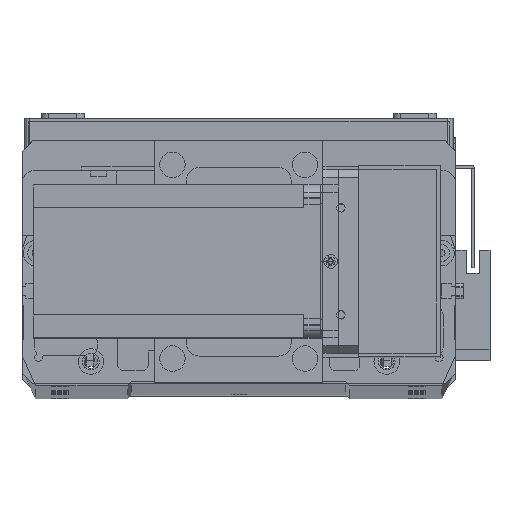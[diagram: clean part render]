
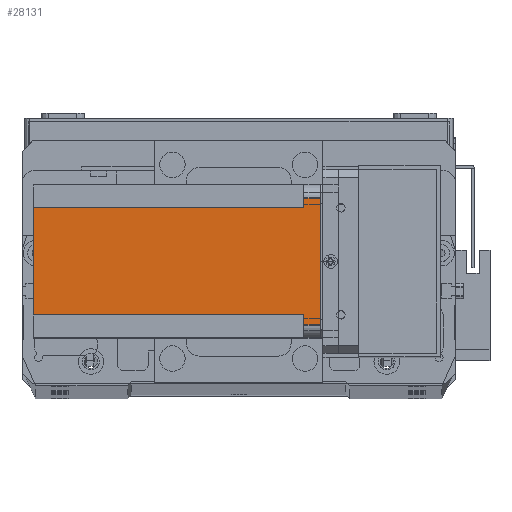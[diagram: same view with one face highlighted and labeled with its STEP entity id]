
A CAD part, top view. The second image highlights one B-rep face of the part: STEP entity #28131.
In plain terms, the highlighted planar face has unit normal (0, 0, 1) as drawn and (-1, 0, 0) by its records, which use the part's own axes.
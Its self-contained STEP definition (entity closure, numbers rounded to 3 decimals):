
#62 = ORIENTED_EDGE ( 'NONE', *, *, #4973, .F. ) ;
#497 = CARTESIAN_POINT ( 'NONE',  ( 0., 0., -112.5 ) ) ;
#1409 = ORIENTED_EDGE ( 'NONE', *, *, #5051, .F. ) ;
#2577 = DIRECTION ( 'NONE',  ( 0., -1., 0. ) ) ;
#2967 = DIRECTION ( 'NONE',  ( 0., 0., 1. ) ) ;
#3055 = ORIENTED_EDGE ( 'NONE', *, *, #7539, .T. ) ;
#3903 = CARTESIAN_POINT ( 'NONE',  ( 0., 5., -112.5 ) ) ;
#3939 = VERTEX_POINT ( 'NONE', #19304 ) ;
#4130 = LINE ( 'NONE', #14245, #17694 ) ;
#4863 = EDGE_CURVE ( 'NONE', #3939, #19106, #26888, .T. ) ;
#4915 = EDGE_CURVE ( 'NONE', #18565, #17050, #18506, .T. ) ;
#4924 = EDGE_CURVE ( 'NONE', #18925, #17050, #4130, .T. ) ;
#4953 = PLANE ( 'NONE',  #6298 ) ;
#4973 = EDGE_CURVE ( 'NONE', #23999, #18925, #24585, .T. ) ;
#5051 = EDGE_CURVE ( 'NONE', #9072, #22263, #29547, .T. ) ;
#6298 = AXIS2_PLACEMENT_3D ( 'NONE', #18496, #28642, #13351 ) ;
#6810 = VECTOR ( 'NONE', #2577, 1000. ) ;
#7012 = EDGE_LOOP ( 'NONE', ( #12908, #12593, #17623, #23593, #27430, #62, #3055, #1409 ) ) ;
#7539 = EDGE_CURVE ( 'NONE', #23999, #22263, #27631, .T. ) ;
#8589 = CARTESIAN_POINT ( 'NONE',  ( 0., 0., 0. ) ) ;
#8976 = CARTESIAN_POINT ( 'NONE',  ( 0., 55., -6.5 ) ) ;
#9072 = VERTEX_POINT ( 'NONE', #9295 ) ;
#9295 = CARTESIAN_POINT ( 'NONE',  ( 0., 9., -6.5 ) ) ;
#9360 = VECTOR ( 'NONE', #11295, 1000. ) ;
#10645 = DIRECTION ( 'NONE',  ( 0., 1., 0. ) ) ;
#11014 = LINE ( 'NONE', #8589, #9360 ) ;
#11295 = DIRECTION ( 'NONE',  ( 0., -1., 0. ) ) ;
#11518 = CARTESIAN_POINT ( 'NONE',  ( 0., 55., 0. ) ) ;
#12593 = ORIENTED_EDGE ( 'NONE', *, *, #4863, .T. ) ;
#12908 = ORIENTED_EDGE ( 'NONE', *, *, #25093, .F. ) ;
#13032 = CARTESIAN_POINT ( 'NONE',  ( 0., 9., -112.5 ) ) ;
#13351 = DIRECTION ( 'NONE',  ( 0., -1., 0. ) ) ;
#13840 = CARTESIAN_POINT ( 'NONE',  ( 0., 51., -112.5 ) ) ;
#14245 = CARTESIAN_POINT ( 'NONE',  ( 0., 60., -6.5 ) ) ;
#14432 = VECTOR ( 'NONE', #27874, 1000. ) ;
#15017 = DIRECTION ( 'NONE',  ( 0., 1., 0. ) ) ;
#16895 = VECTOR ( 'NONE', #32440, 1000. ) ;
#17050 = VERTEX_POINT ( 'NONE', #8976 ) ;
#17623 = ORIENTED_EDGE ( 'NONE', *, *, #23106, .F. ) ;
#17694 = VECTOR ( 'NONE', #10645, 1000. ) ;
#18496 = CARTESIAN_POINT ( 'NONE',  ( 0., 0., -112.5 ) ) ;
#18506 = LINE ( 'NONE', #23224, #25359 ) ;
#18565 = VERTEX_POINT ( 'NONE', #11518 ) ;
#18925 = VERTEX_POINT ( 'NONE', #28877 ) ;
#19106 = VERTEX_POINT ( 'NONE', #19506 ) ;
#19304 = CARTESIAN_POINT ( 'NONE',  ( 0., 5., -6.5 ) ) ;
#19506 = CARTESIAN_POINT ( 'NONE',  ( 0., 5., 0. ) ) ;
#21735 = VECTOR ( 'NONE', #2967, 1000. ) ;
#22263 = VERTEX_POINT ( 'NONE', #13032 ) ;
#23106 = EDGE_CURVE ( 'NONE', #18565, #19106, #11014, .T. ) ;
#23224 = CARTESIAN_POINT ( 'NONE',  ( 0., 55., -112.5 ) ) ;
#23593 = ORIENTED_EDGE ( 'NONE', *, *, #4915, .T. ) ;
#23699 = VECTOR ( 'NONE', #15017, 1000. ) ;
#23999 = VERTEX_POINT ( 'NONE', #13840 ) ;
#24585 = LINE ( 'NONE', #33751, #16895 ) ;
#25093 = EDGE_CURVE ( 'NONE', #3939, #9072, #30230, .T. ) ;
#25359 = VECTOR ( 'NONE', #29597, 1000. ) ;
#26888 = LINE ( 'NONE', #3903, #21735 ) ;
#27430 = ORIENTED_EDGE ( 'NONE', *, *, #4924, .F. ) ;
#27631 = LINE ( 'NONE', #497, #6810 ) ;
#27874 = DIRECTION ( 'NONE',  ( 0., 0., -1. ) ) ;
#28131 = ADVANCED_FACE ( 'NONE', ( #32141 ), #4953, .T. ) ;
#28392 = CARTESIAN_POINT ( 'NONE',  ( 0., 9., -112.5 ) ) ;
#28642 = DIRECTION ( 'NONE',  ( -1., 0., 0. ) ) ;
#28877 = CARTESIAN_POINT ( 'NONE',  ( 0., 51., -6.5 ) ) ;
#29547 = LINE ( 'NONE', #28392, #14432 ) ;
#29597 = DIRECTION ( 'NONE',  ( 0., 0., -1. ) ) ;
#30089 = CARTESIAN_POINT ( 'NONE',  ( 0., 0., -6.5 ) ) ;
#30230 = LINE ( 'NONE', #30089, #23699 ) ;
#32141 = FACE_OUTER_BOUND ( 'NONE', #7012, .T. ) ;
#32440 = DIRECTION ( 'NONE',  ( 0., 0., 1. ) ) ;
#33751 = CARTESIAN_POINT ( 'NONE',  ( 0., 51., -112.5 ) ) ;
